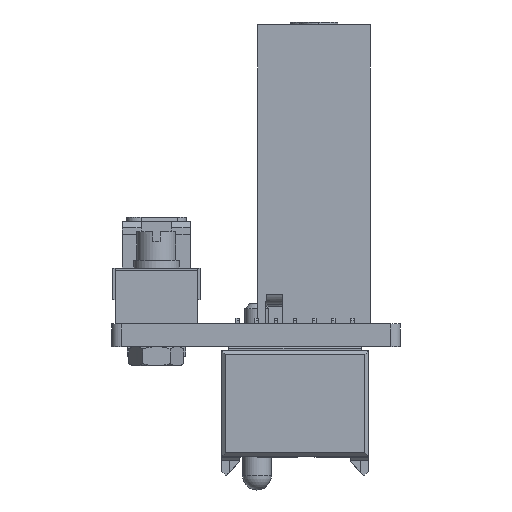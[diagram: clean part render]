
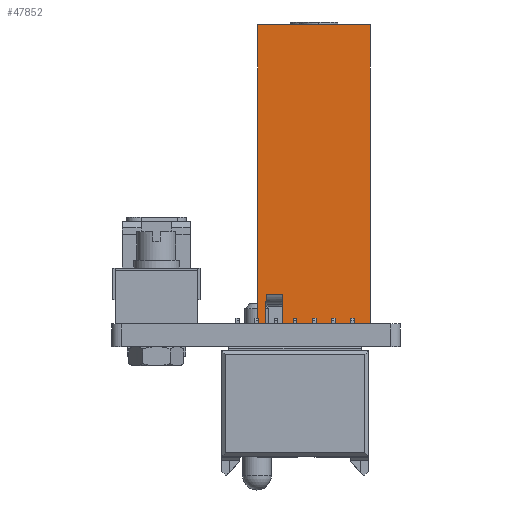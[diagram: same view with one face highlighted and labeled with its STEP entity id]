
A CAD part, front view. The second image highlights one B-rep face of the part: STEP entity #47852.
In plain terms, the highlighted planar face has unit normal (0, -1, 0).
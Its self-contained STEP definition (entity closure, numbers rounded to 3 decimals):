
#2531=DIRECTION('',(-1.,0.,0.));
#2532=VECTOR('',#2531,9.173);
#2533=CARTESIAN_POINT('',(5.89,-71.715,2.4));
#2534=LINE('',#2533,#2532);
#2547=DIRECTION('',(-1.,0.,0.));
#2548=VECTOR('',#2547,0.846);
#2549=CARTESIAN_POINT('',(-5.064,-71.715,2.4));
#2550=LINE('',#2549,#2548);
#4347=DIRECTION('',(0.009,0.,-1.));
#4348=VECTOR('',#4347,3.114);
#4349=CARTESIAN_POINT('',(-3.31,-71.715,5.514));
#4350=LINE('',#4349,#4348);
#4351=DIRECTION('',(1.,0.,0.009));
#4352=VECTOR('',#4351,1.727);
#4353=CARTESIAN_POINT('',(-5.037,-71.715,5.499));
#4354=LINE('',#4353,#4352);
#4355=DIRECTION('',(0.009,0.,1.));
#4356=VECTOR('',#4355,3.099);
#4357=CARTESIAN_POINT('',(-5.064,-71.715,2.4));
#4358=LINE('',#4357,#4356);
#4359=DIRECTION('',(0.,0.,1.));
#4360=VECTOR('',#4359,31.3);
#4361=CARTESIAN_POINT('',(5.89,-71.715,2.4));
#4362=LINE('',#4361,#4360);
#4418=DIRECTION('',(1.,0.,0.));
#4419=VECTOR('',#4418,11.8);
#4420=CARTESIAN_POINT('',(-5.91,-71.715,33.7));
#4421=LINE('',#4420,#4419);
#4496=DIRECTION('',(0.,0.,1.));
#4497=VECTOR('',#4496,31.3);
#4498=CARTESIAN_POINT('',(-5.91,-71.715,2.4));
#4499=LINE('',#4498,#4497);
#33810=CARTESIAN_POINT('',(-5.037,-71.715,5.499));
#33811=CARTESIAN_POINT('',(-3.31,-71.715,5.514));
#33812=VERTEX_POINT('',#33810);
#33813=VERTEX_POINT('',#33811);
#33814=CARTESIAN_POINT('',(-5.91,-71.715,33.7));
#33815=CARTESIAN_POINT('',(5.89,-71.715,33.7));
#33816=VERTEX_POINT('',#33814);
#33817=VERTEX_POINT('',#33815);
#34008=CARTESIAN_POINT('',(5.89,-71.715,2.4));
#34009=CARTESIAN_POINT('',(-3.283,-71.715,2.4));
#34010=VERTEX_POINT('',#34008);
#34011=VERTEX_POINT('',#34009);
#34012=CARTESIAN_POINT('',(-5.064,-71.715,2.4));
#34013=CARTESIAN_POINT('',(-5.91,-71.715,2.4));
#34014=VERTEX_POINT('',#34012);
#34015=VERTEX_POINT('',#34013);
#47831=CARTESIAN_POINT('',(5.89,-71.715,33.7));
#47832=DIRECTION('',(0.,1.,0.));
#47833=DIRECTION('',(0.,0.,-1.));
#47834=AXIS2_PLACEMENT_3D('',#47831,#47832,#47833);
#47835=PLANE('',#47834);
#47836=ORIENTED_EDGE('',*,*,#43570,.T.);
#47838=ORIENTED_EDGE('',*,*,#47837,.F.);
#47840=ORIENTED_EDGE('',*,*,#47839,.F.);
#47842=ORIENTED_EDGE('',*,*,#47841,.F.);
#47843=ORIENTED_EDGE('',*,*,#43580,.T.);
#47845=ORIENTED_EDGE('',*,*,#47844,.T.);
#47847=ORIENTED_EDGE('',*,*,#47846,.T.);
#47849=ORIENTED_EDGE('',*,*,#47848,.F.);
#47850=EDGE_LOOP('',(#47836,#47838,#47840,#47842,#47843,#47845,#47847,#47849));
#47851=FACE_OUTER_BOUND('',#47850,.F.);
#43570=EDGE_CURVE('',#34010,#34011,#2534,.T.);
#43580=EDGE_CURVE('',#34014,#34015,#2550,.T.);
#47837=EDGE_CURVE('',#33813,#34011,#4350,.T.);
#47839=EDGE_CURVE('',#33812,#33813,#4354,.T.);
#47841=EDGE_CURVE('',#34014,#33812,#4358,.T.);
#47844=EDGE_CURVE('',#34015,#33816,#4499,.T.);
#47846=EDGE_CURVE('',#33816,#33817,#4421,.T.);
#47848=EDGE_CURVE('',#34010,#33817,#4362,.T.);
#47852=ADVANCED_FACE('',(#47851),#47835,.F.);
